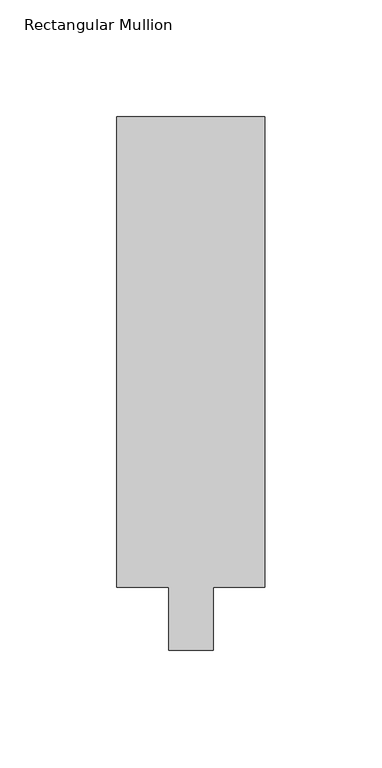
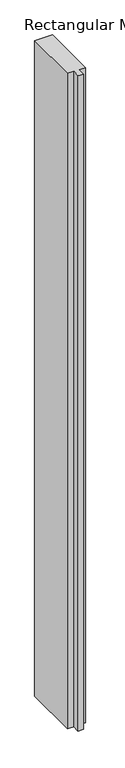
"""IFC4 building model written with IfcOpenShell, lengths in millimetres: member geometry."""

import ifcopenshell
import ifcopenshell.guid

model = None  # the IFC model being written
_history = None  # IfcOwnerHistory: only IFC2X3 demands one
_inside = {}  # id of a spatial element -> (the spatial element, [elements in it])
_under = {}  # id of a project, library or spatial element -> (it, [spatial elements below it])
_declared = {}  # id of a project -> (the project, [libraries it declares])
_typed = {}  # id of a type object -> (the type object, [elements of that type])
_made_of = {}  # id of a material, layer set ... -> (it, [elements and type objects made of it])


def new_model(schema):
    """Start an empty IFC model of exactly this schema.

    Asked for "IFC4X3", IfcOpenShell would pick the latest addendum, in which some entities
    have other attributes; the version numbers below select the first issue.
    IFC2X3 requires an IfcOwnerHistory on every rooted entity: one is made here for all.
    """
    global model, _history
    if schema == "IFC4X3":
        model = ifcopenshell.file(schema_version=(4, 3, 0, 0))
    else:
        model = ifcopenshell.file(schema=schema)
    _inside.clear()
    _under.clear()
    _declared.clear()
    _typed.clear()
    _made_of.clear()
    _history = None
    if model.schema == "IFC2X3":
        org = make("IfcOrganization", Name="unknown")
        user = make(
            "IfcPersonAndOrganization",
            ThePerson=make("IfcPerson", FamilyName="unknown"),
            TheOrganization=org,
        )
        app = make(
            "IfcApplication",
            ApplicationDeveloper=org,
            Version="unknown",
            ApplicationFullName="unknown",
            ApplicationIdentifier="unknown",
        )
        _history = make(
            "IfcOwnerHistory",
            OwningUser=user,
            OwningApplication=app,
            ChangeAction="ADDED",
            CreationDate=0,
        )
    return model


def make(cls, **values):
    """One entity of the class cls with the attributes given. An attribute that is None is left unset."""
    return model.create_entity(
        cls, **{name: value for name, value in values.items() if value is not None}
    )


def rooted(cls, **values):
    """An entity with a GlobalId (a new one), such as an element, a storey or a relation."""
    return make(cls, GlobalId=ifcopenshell.guid.new(), OwnerHistory=_history, **values)


def si_unit(unit_type, name, prefix=None):
    """IfcSIUnit, for example si_unit("LENGTHUNIT", "METRE", prefix="MILLI")."""
    return make("IfcSIUnit", UnitType=unit_type, Prefix=prefix, Name=name)


def assignment(units):
    """IfcUnitAssignment: the units of a project."""
    return None if units is None else make("IfcUnitAssignment", Units=units)


def point(xyz):
    """IfcCartesianPoint."""
    return None if xyz is None else make("IfcCartesianPoint", Coordinates=xyz)


def direction(xyz):
    """IfcDirection."""
    return None if xyz is None else make("IfcDirection", DirectionRatios=xyz)


def frame(location, z_axis=None, x_axis=None):
    """IfcAxis2Placement3D, a coordinate frame: its origin and axes. An axis left out is left unset."""
    return make(
        "IfcAxis2Placement3D",
        Location=point(location),
        Axis=direction(z_axis),
        RefDirection=direction(x_axis),
    )


def origin():
    """The frame at (0, 0, 0) with its axes left unset."""
    return frame((0.0, 0.0, 0.0))


def place(relative_to, where):
    """IfcLocalPlacement: puts the frame where relative to a parent placement (None: the world)."""
    return make(
        "IfcLocalPlacement", PlacementRelTo=relative_to, RelativePlacement=where
    )


def context(
    kind, dimensions, precision=None, world=None, true_north=None, identifier=None
):
    """IfcGeometricRepresentationContext, for example the 3D "Model" context."""
    return make(
        "IfcGeometricRepresentationContext",
        ContextIdentifier=identifier,
        ContextType=kind,
        CoordinateSpaceDimension=dimensions,
        Precision=precision,
        WorldCoordinateSystem=world,
        TrueNorth=true_north,
    )


def project(units=None, contexts=None):
    """IfcProject with its units and contexts."""
    return rooted(
        "IfcProject",
        Name="project",
        RepresentationContexts=contexts,
        UnitsInContext=assignment(units),
    )


def spatial(cls, under=None, at=None, **own):
    """A site, building, storey or space (cls), placed at a placement, below another one or the project."""
    s = rooted(cls, ObjectPlacement=at, **own)
    if under is not None:
        _under.setdefault(under.id(), (under, []))[1].append(s)
    return s


def polyline(points):
    """IfcPolyline through the points."""
    return make("IfcPolyline", Points=[point(p) for p in points])


def outline(outer, holes=None, kind="AREA"):
    """IfcArbitraryClosedProfileDef: a profile drawn as a closed curve; with holes, ...WithVoids."""
    if holes is None:
        return make("IfcArbitraryClosedProfileDef", ProfileType=kind, OuterCurve=outer)
    return make(
        "IfcArbitraryProfileDefWithVoids",
        ProfileType=kind,
        OuterCurve=outer,
        InnerCurves=holes,
    )


def extrude(swept, where, along, depth):
    """IfcExtrudedAreaSolid: the profile swept, set in the frame where, extruded along a direction by depth."""
    return make(
        "IfcExtrudedAreaSolid",
        SweptArea=swept,
        Position=where,
        ExtrudedDirection=direction(along),
        Depth=depth,
    )


def shape(context_of_items, identifier, shape_type, items):
    """IfcShapeRepresentation: the items that make up one representation, for example the "Body"."""
    return make(
        "IfcShapeRepresentation",
        ContextOfItems=context_of_items,
        RepresentationIdentifier=identifier,
        RepresentationType=shape_type,
        Items=items,
    )


def source(mapping_origin, context_of_items, identifier, shape_type, items):
    """IfcRepresentationMap: a shape defined once, which mapped items show again and again."""
    return make(
        "IfcRepresentationMap",
        MappingOrigin=mapping_origin,
        MappedRepresentation=shape(context_of_items, identifier, shape_type, items),
    )


def transform(
    local_origin,
    x_axis=None,
    y_axis=None,
    z_axis=None,
    scale=None,
    scale2=None,
    scale3=None,
    uniform=True,
):
    """IfcCartesianTransformationOperator3D, or its non-uniform kind. x_axis, y_axis, z_axis: its Axis1, 2, 3."""
    if uniform:
        return make(
            "IfcCartesianTransformationOperator3D",
            Axis1=direction(x_axis),
            Axis2=direction(y_axis),
            LocalOrigin=point(local_origin),
            Scale=scale,
            Axis3=direction(z_axis),
        )
    return make(
        "IfcCartesianTransformationOperator3DnonUniform",
        Axis1=direction(x_axis),
        Axis2=direction(y_axis),
        LocalOrigin=point(local_origin),
        Scale=scale,
        Axis3=direction(z_axis),
        Scale2=scale2,
        Scale3=scale3,
    )


def mapped(mapping_source, mapping_target):
    """IfcMappedItem: shows the shape of a source again, moved by a transform."""
    return make(
        "IfcMappedItem", MappingSource=mapping_source, MappingTarget=mapping_target
    )


def made_of(thing, what):
    """Note that an element or type object is made of a material, layer set ...; save() writes the relation."""
    if what is not None:
        _made_of.setdefault(what.id(), (what, []))[1].append(thing)
    return thing


def element(
    cls,
    number,
    at=None,
    inside=None,
    cuts=None,
    type_object=None,
    material=None,
    context=None,
    identifier="Body",
    shape_type=None,
    held_by="IfcProductDefinitionShape",
    body=None,
    shapes=None,
    **own,
):
    """One element of the class cls, such as IfcWall. Its Tag is "e" and its number.

    at: its placement. inside: the storey or other place that contains it. cuts: it is an
    opening in that element (IfcRelVoidsElement). A single representation is given by context,
    identifier, shape_type and body (its items); several are given by shapes. held_by: the class
    of the entity that holds the representations. save() writes the other relations.
    """
    e = rooted(cls, Tag="e%d" % number, ObjectPlacement=at, **own)
    if body is not None:
        shapes = [shape(context, identifier, shape_type, body)]
    if shapes is not None:
        e.Representation = make(held_by, Representations=shapes)
    if inside is not None:
        _inside.setdefault(inside.id(), (inside, []))[1].append(e)
    if cuts is not None:
        rooted(
            "IfcRelVoidsElement", RelatingBuildingElement=cuts, RelatedOpeningElement=e
        )
    if type_object is not None:
        _typed.setdefault(type_object.id(), (type_object, []))[1].append(e)
    return made_of(e, material)


def aggregate(whole, parts):
    """IfcRelAggregates: a whole, such as a stair, and the parts it consists of."""
    return rooted("IfcRelAggregates", RelatingObject=whole, RelatedObjects=parts)


def save(model, path):
    """Write the relations noted so far, then the file.

    IfcRelAggregates (storeys below a building ...), IfcRelContainedInSpatialStructure (elements
    in a storey), IfcRelDefinesByType, IfcRelAssociatesMaterial and IfcRelDeclares: one each for
    every whole, place, type object, material and project.
    """
    for whole, parts in _under.values():
        aggregate(whole, parts)
    for where, things in _inside.values():
        rooted(
            "IfcRelContainedInSpatialStructure",
            RelatedElements=things,
            RelatingStructure=where,
        )
    for kind, things in _typed.values():
        rooted("IfcRelDefinesByType", RelatedObjects=things, RelatingType=kind)
    for what, things in _made_of.values():
        rooted("IfcRelAssociatesMaterial", RelatedObjects=things, RelatingMaterial=what)
    for by, libraries in _declared.values():
        rooted("IfcRelDeclares", RelatingContext=by, RelatedDefinitions=libraries)
    model.write(path)


def rectangular_mullion_af526003(model_context):
    return source(origin(), model_context, "Body", "SweptSolid", [
        extrude(outline(polyline([(-31.75, 228.6), (31.75, 228.6), (31.75, 26.9875), (9.525, 26.9875), (9.525, 0.0), (-9.525, 0.0), (-9.525, 26.9875), (-31.75, 26.9875), (-31.75, 228.6)])), frame((0.0, 0.0, -2453.8116285), z_axis=(0.0, 0.0, 1.0), x_axis=(1.0, 0.0, 0.0)), (0.0, 0.0, 1.0), 2453.8116285),
    ])


if __name__ == "__main__":
    model = new_model("IFC4")
    model_context = context("Model", 3, world=origin())
    ifc_project = project(units=[si_unit("LENGTHUNIT", "METRE", prefix="MILLI")], contexts=[model_context])
    site = spatial("IfcSite", under=ifc_project)
    building = spatial("IfcBuilding", under=site)
    placement = place(None, origin())
    rectangular_mullion_shape = rectangular_mullion_af526003(model_context)
    element("IfcMember", 1, ObjectType="Rectangular Mullion : 2 1/2\" x 8\" - Capless", at=placement, inside=building, context=model_context, shape_type="MappedRepresentation", body=[
        mapped(rectangular_mullion_shape, transform((0.0, 0.0, 0.0), x_axis=(1.0, 0.0, 0.0), y_axis=(0.0, 1.0, 0.0), z_axis=(0.0, 0.0, 1.0))),
    ])
    save(model, "model.ifc")
